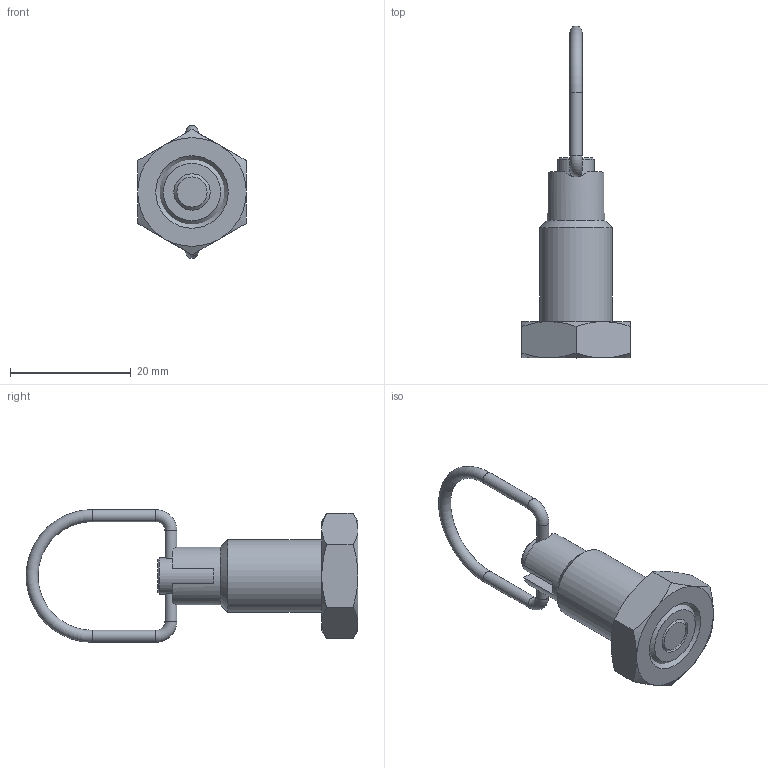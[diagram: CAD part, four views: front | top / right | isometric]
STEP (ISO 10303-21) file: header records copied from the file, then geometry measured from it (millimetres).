
FILE_DESCRIPTION( ( 'STEP AP203' ), '1' );
FILE_NAME( 'C:/Temp/Ganter_Step_05_03_2020/data/3_1/gn_413/gn413_ni/gn413_ni_ck/Stainless Steel Indexing plunger GN 413-6-M12x1,5-CK-NI (activated 0).stp', '2020-03-12T09:11:35', ( 'License CC BY-ND 4.0' ), ( 'CADENAS' ), ' ', 'PARTsolutions', ' ' );
FILE_SCHEMA( ( 'CONFIG_CONTROL_DESIGN' ) );
Length unit declared in the file: millimetre
Products named in the file (4): Stainless Steel Indexing plunger GN 413-6-M12x1,5-CK-NI (activated 0); _Stainless Steel Indexing plunger GN 413-6-M12-CK-NI (2)_f; _Stainless Steel Indexing plunger GN 413-6-M12-CK-NI (2)_b; _Stainless Steel Indexing plunger GN 413-6-M12-CK-NI (2)_km
Assembly tree (3 placements, depth 2):
  Stainless Steel Indexing plunger GN 413-6-M12x1,5-CK-NI (activated 0)
    _Stainless Steel Indexing plunger GN 413-6-M12-CK-NI (2)_f
    _Stainless Steel Indexing plunger GN 413-6-M12-CK-NI (2)_b
    _Stainless Steel Indexing plunger GN 413-6-M12-CK-NI (2)_km
Bounding box: 18 x 54.99 x 22 mm (x, y, z)
Volume: 4297 mm3; surface area: 3930.4 mm2
Topology: 3 solids, 3 shells, 67 faces, 147 edges, 90 vertices
Faces by surface type: plane 26, cone 22, cylinder 16, torus 3
Full cylindrical faces by diameter (mm): 2 x4, 6 x4, 6.3 x1, 8 x2, 9.6 x1, 10.106 x1, 12 x1
Entity records: 2015 total; most frequent: CARTESIAN_POINT 547, DIRECTION 282, ORIENTED_EDGE 238, AXIS2_PLACEMENT_3D 128, EDGE_CURVE 119, EDGE_LOOP 100, VERTEX_POINT 85, FACE_OUTER_BOUND 84
